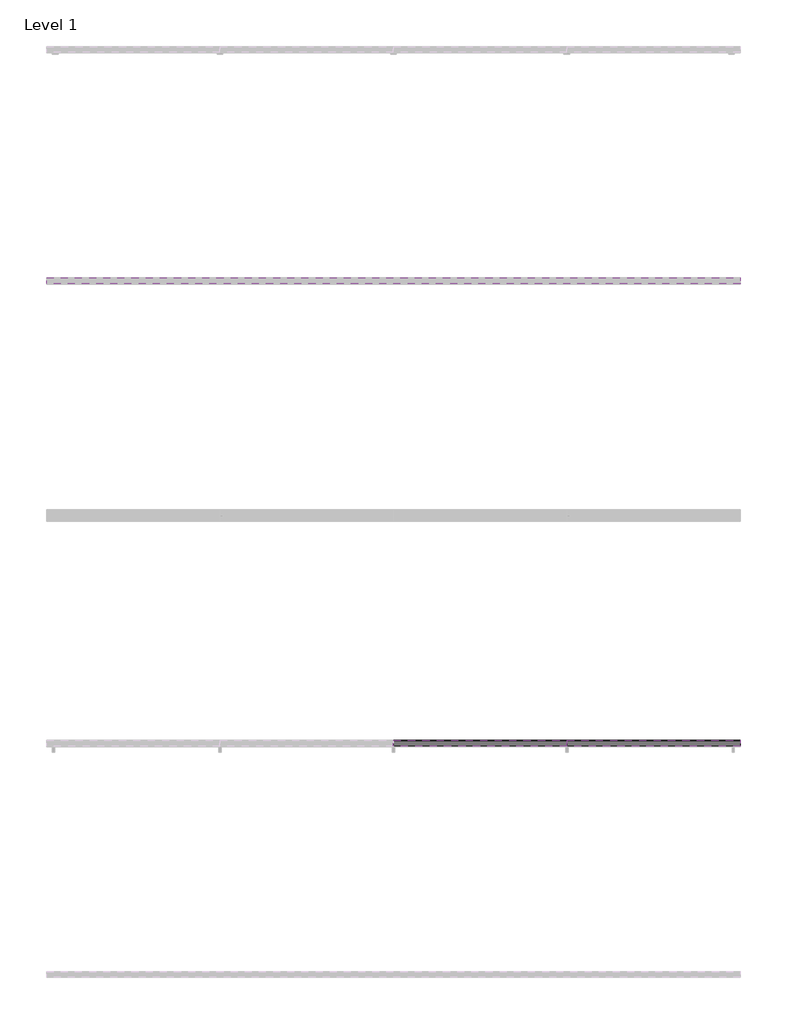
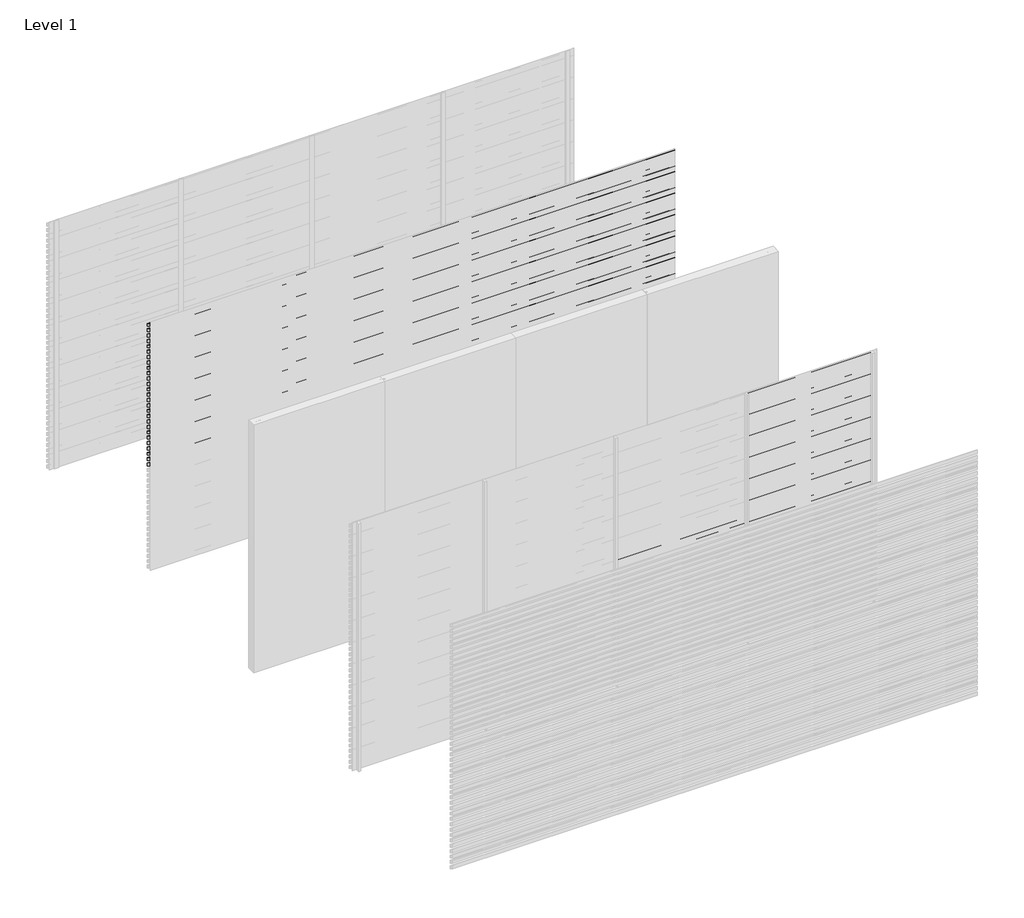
# One storey, part 8 of 10: 97 proxies.
"""IFC4 building model written with IfcOpenShell, lengths in millimetres."""

from ifc_helpers import new_model, si_unit, frame, origin, place, context, project, spatial, polyline, outline, extrude, element, save

model = new_model("IFC4")

# Units and contexts
model_context = context("Model", 3, world=origin())
ifc_project = project(units=[si_unit("LENGTHUNIT", "METRE", prefix="MILLI")], contexts=[model_context])

# Site, building, storey
site = spatial("IfcSite", under=ifc_project)
building = spatial("IfcBuilding", under=site)
storey = spatial("IfcBuildingStorey", under=building, Name="Level 1", Elevation=0.0)

# Proxies
placement = place(None, origin())
element("IfcBuildingElementProxy", 1, Name="Wall Sweeps", at=placement, inside=storey, context=model_context, shape_type="SweptSolid", body=[
    extrude(outline(polyline([(-1995.0, 2990.0), (-1995.0, 2981.2901632), (-1946.0, 2953.0), (-1946.0, 2918.0), (-1997.0, 2947.4448637), (-1997.0, 2990.0), (-1995.0, 2990.0)])), frame((0.0, 0.0, 0.0), z_axis=(1.0, 0.0, 0.0), x_axis=(0.0, 1.0, 0.0)), (0.0, 0.0, 1.0), 6000.0),
])
element("IfcBuildingElementProxy", 2, Name="Wall Sweeps", at=placement, inside=storey, context=model_context, shape_type="SweptSolid", body=[
    extrude(outline(polyline([(-1995.0, 2925.0), (-1995.0, 2916.2901632), (-1946.0, 2888.0), (-1946.0, 2853.0), (-1997.0, 2882.4448637), (-1997.0, 2925.0), (-1995.0, 2925.0)])), frame((0.0, 0.0, 0.0), z_axis=(1.0, 0.0, 0.0), x_axis=(0.0, 1.0, 0.0)), (0.0, 0.0, 1.0), 6000.0),
])
element("IfcBuildingElementProxy", 3, Name="Wall Sweeps", at=placement, inside=storey, context=model_context, shape_type="SweptSolid", body=[
    extrude(outline(polyline([(-1995.0, 2860.0), (-1995.0, 2851.2901632), (-1946.0, 2823.0), (-1946.0, 2788.0), (-1997.0, 2817.4448637), (-1997.0, 2860.0), (-1995.0, 2860.0)])), frame((0.0, 0.0, 0.0), z_axis=(1.0, 0.0, 0.0), x_axis=(0.0, 1.0, 0.0)), (0.0, 0.0, 1.0), 6000.0),
])
element("IfcBuildingElementProxy", 4, Name="Wall Sweeps", at=placement, inside=storey, context=model_context, shape_type="SweptSolid", body=[
    extrude(outline(polyline([(-1995.0, 2795.0), (-1995.0, 2786.2901632), (-1946.0, 2758.0), (-1946.0, 2723.0), (-1997.0, 2752.4448637), (-1997.0, 2795.0), (-1995.0, 2795.0)])), frame((0.0, 0.0, 0.0), z_axis=(1.0, 0.0, 0.0), x_axis=(0.0, 1.0, 0.0)), (0.0, 0.0, 1.0), 6000.0),
])
element("IfcBuildingElementProxy", 5, Name="Wall Sweeps", at=placement, inside=storey, context=model_context, shape_type="SweptSolid", body=[
    extrude(outline(polyline([(-1995.0, 2730.0), (-1995.0, 2721.2901632), (-1946.0, 2693.0), (-1946.0, 2658.0), (-1997.0, 2687.4448637), (-1997.0, 2730.0), (-1995.0, 2730.0)])), frame((0.0, 0.0, 0.0), z_axis=(1.0, 0.0, 0.0), x_axis=(0.0, 1.0, 0.0)), (0.0, 0.0, 1.0), 6000.0),
])
element("IfcBuildingElementProxy", 6, Name="Wall Sweeps", at=placement, inside=storey, context=model_context, shape_type="SweptSolid", body=[
    extrude(outline(polyline([(-1995.0, 2665.0), (-1995.0, 2656.2901632), (-1946.0, 2628.0), (-1946.0, 2593.0), (-1997.0, 2622.4448637), (-1997.0, 2665.0), (-1995.0, 2665.0)])), frame((0.0, 0.0, 0.0), z_axis=(1.0, 0.0, 0.0), x_axis=(0.0, 1.0, 0.0)), (0.0, 0.0, 1.0), 6000.0),
])
element("IfcBuildingElementProxy", 7, Name="Wall Sweeps", at=placement, inside=storey, context=model_context, shape_type="SweptSolid", body=[
    extrude(outline(polyline([(-1995.0, 2600.0), (-1995.0, 2591.2901632), (-1946.0, 2563.0), (-1946.0, 2528.0), (-1997.0, 2557.4448637), (-1997.0, 2600.0), (-1995.0, 2600.0)])), frame((0.0, 0.0, 0.0), z_axis=(1.0, 0.0, 0.0), x_axis=(0.0, 1.0, 0.0)), (0.0, 0.0, 1.0), 6000.0),
])
element("IfcBuildingElementProxy", 8, Name="Wall Sweeps", at=placement, inside=storey, context=model_context, shape_type="SweptSolid", body=[
    extrude(outline(polyline([(-1995.0, 2535.0), (-1995.0, 2526.2901632), (-1946.0, 2498.0), (-1946.0, 2463.0), (-1997.0, 2492.4448637), (-1997.0, 2535.0), (-1995.0, 2535.0)])), frame((0.0, 0.0, 0.0), z_axis=(1.0, 0.0, 0.0), x_axis=(0.0, 1.0, 0.0)), (0.0, 0.0, 1.0), 6000.0),
])
element("IfcBuildingElementProxy", 9, Name="Wall Sweeps", at=placement, inside=storey, context=model_context, shape_type="SweptSolid", body=[
    extrude(outline(polyline([(-1995.0, 2470.0), (-1995.0, 2461.2901632), (-1946.0, 2433.0), (-1946.0, 2398.0), (-1997.0, 2427.4448637), (-1997.0, 2470.0), (-1995.0, 2470.0)])), frame((0.0, 0.0, 0.0), z_axis=(1.0, 0.0, 0.0), x_axis=(0.0, 1.0, 0.0)), (0.0, 0.0, 1.0), 6000.0),
])
element("IfcBuildingElementProxy", 10, Name="Wall Sweeps", at=placement, inside=storey, context=model_context, shape_type="SweptSolid", body=[
    extrude(outline(polyline([(-1995.0, 2405.0), (-1995.0, 2396.2901632), (-1946.0, 2368.0), (-1946.0, 2333.0), (-1997.0, 2362.4448637), (-1997.0, 2405.0), (-1995.0, 2405.0)])), frame((0.0, 0.0, 0.0), z_axis=(1.0, 0.0, 0.0), x_axis=(0.0, 1.0, 0.0)), (0.0, 0.0, 1.0), 6000.0),
])
element("IfcBuildingElementProxy", 11, Name="Wall Sweeps", at=placement, inside=storey, context=model_context, shape_type="SweptSolid", body=[
    extrude(outline(polyline([(-1995.0, 2340.0), (-1995.0, 2331.2901632), (-1946.0, 2303.0), (-1946.0, 2268.0), (-1997.0, 2297.4448637), (-1997.0, 2340.0), (-1995.0, 2340.0)])), frame((0.0, 0.0, 0.0), z_axis=(1.0, 0.0, 0.0), x_axis=(0.0, 1.0, 0.0)), (0.0, 0.0, 1.0), 6000.0),
])
element("IfcBuildingElementProxy", 12, Name="Wall Sweeps", at=placement, inside=storey, context=model_context, shape_type="SweptSolid", body=[
    extrude(outline(polyline([(-1995.0, 2275.0), (-1995.0, 2266.2901632), (-1946.0, 2238.0), (-1946.0, 2203.0), (-1997.0, 2232.4448637), (-1997.0, 2275.0), (-1995.0, 2275.0)])), frame((0.0, 0.0, 0.0), z_axis=(1.0, 0.0, 0.0), x_axis=(0.0, 1.0, 0.0)), (0.0, 0.0, 1.0), 6000.0),
])
element("IfcBuildingElementProxy", 13, Name="Wall Sweeps", at=placement, inside=storey, context=model_context, shape_type="SweptSolid", body=[
    extrude(outline(polyline([(-1995.0, 2210.0), (-1995.0, 2201.2901632), (-1946.0, 2173.0), (-1946.0, 2138.0), (-1997.0, 2167.4448637), (-1997.0, 2210.0), (-1995.0, 2210.0)])), frame((0.0, 0.0, 0.0), z_axis=(1.0, 0.0, 0.0), x_axis=(0.0, 1.0, 0.0)), (0.0, 0.0, 1.0), 6000.0),
])
element("IfcBuildingElementProxy", 14, Name="Wall Sweeps", at=placement, inside=storey, context=model_context, shape_type="SweptSolid", body=[
    extrude(outline(polyline([(-1995.0, 2145.0), (-1995.0, 2136.2901632), (-1946.0, 2108.0), (-1946.0, 2073.0), (-1997.0, 2102.4448637), (-1997.0, 2145.0), (-1995.0, 2145.0)])), frame((0.0, 0.0, 0.0), z_axis=(1.0, 0.0, 0.0), x_axis=(0.0, 1.0, 0.0)), (0.0, 0.0, 1.0), 6000.0),
])
element("IfcBuildingElementProxy", 15, Name="Wall Sweeps", at=placement, inside=storey, context=model_context, shape_type="SweptSolid", body=[
    extrude(outline(polyline([(-1995.0, 2080.0), (-1995.0, 2071.2901632), (-1946.0, 2043.0), (-1946.0, 2008.0), (-1997.0, 2037.4448637), (-1997.0, 2080.0), (-1995.0, 2080.0)])), frame((0.0, 0.0, 0.0), z_axis=(1.0, 0.0, 0.0), x_axis=(0.0, 1.0, 0.0)), (0.0, 0.0, 1.0), 6000.0),
])
element("IfcBuildingElementProxy", 16, Name="Wall Sweeps", at=placement, inside=storey, context=model_context, shape_type="SweptSolid", body=[
    extrude(outline(polyline([(-1995.0, 2015.0), (-1995.0, 2006.2901632), (-1946.0, 1978.0), (-1946.0, 1943.0), (-1997.0, 1972.4448637), (-1997.0, 2015.0), (-1995.0, 2015.0)])), frame((0.0, 0.0, 0.0), z_axis=(1.0, 0.0, 0.0), x_axis=(0.0, 1.0, 0.0)), (0.0, 0.0, 1.0), 6000.0),
])
element("IfcBuildingElementProxy", 17, Name="Wall Sweeps", at=placement, inside=storey, context=model_context, shape_type="SweptSolid", body=[
    extrude(outline(polyline([(-1995.0, 1950.0), (-1995.0, 1941.2901632), (-1946.0, 1913.0), (-1946.0, 1878.0), (-1997.0, 1907.4448637), (-1997.0, 1950.0), (-1995.0, 1950.0)])), frame((0.0, 0.0, 0.0), z_axis=(1.0, 0.0, 0.0), x_axis=(0.0, 1.0, 0.0)), (0.0, 0.0, 1.0), 6000.0),
])
element("IfcBuildingElementProxy", 18, Name="Wall Sweeps", at=placement, inside=storey, context=model_context, shape_type="SweptSolid", body=[
    extrude(outline(polyline([(-1995.0, 1885.0), (-1995.0, 1876.2901632), (-1946.0, 1848.0), (-1946.0, 1813.0), (-1997.0, 1842.4448637), (-1997.0, 1885.0), (-1995.0, 1885.0)])), frame((0.0, 0.0, 0.0), z_axis=(1.0, 0.0, 0.0), x_axis=(0.0, 1.0, 0.0)), (0.0, 0.0, 1.0), 6000.0),
])
element("IfcBuildingElementProxy", 19, Name="Wall Sweeps", at=placement, inside=storey, context=model_context, shape_type="SweptSolid", body=[
    extrude(outline(polyline([(-1995.0, 1820.0), (-1995.0, 1811.2901632), (-1946.0, 1783.0), (-1946.0, 1748.0), (-1997.0, 1777.4448637), (-1997.0, 1820.0), (-1995.0, 1820.0)])), frame((0.0, 0.0, 0.0), z_axis=(1.0, 0.0, 0.0), x_axis=(0.0, 1.0, 0.0)), (0.0, 0.0, 1.0), 6000.0),
])
element("IfcBuildingElementProxy", 20, Name="Wall Sweeps", at=placement, inside=storey, context=model_context, shape_type="SweptSolid", body=[
    extrude(outline(polyline([(-1995.0, 1755.0), (-1995.0, 1746.2901632), (-1946.0, 1718.0), (-1946.0, 1683.0), (-1997.0, 1712.4448637), (-1997.0, 1755.0), (-1995.0, 1755.0)])), frame((0.0, 0.0, 0.0), z_axis=(1.0, 0.0, 0.0), x_axis=(0.0, 1.0, 0.0)), (0.0, 0.0, 1.0), 6000.0),
])
element("IfcBuildingElementProxy", 21, Name="Wall Sweeps", at=placement, inside=storey, context=model_context, shape_type="SweptSolid", body=[
    extrude(outline(polyline([(-1995.0, 1690.0), (-1995.0, 1681.2901632), (-1946.0, 1653.0), (-1946.0, 1618.0), (-1997.0, 1647.4448637), (-1997.0, 1690.0), (-1995.0, 1690.0)])), frame((0.0, 0.0, 0.0), z_axis=(1.0, 0.0, 0.0), x_axis=(0.0, 1.0, 0.0)), (0.0, 0.0, 1.0), 6000.0),
])
element("IfcBuildingElementProxy", 22, Name="Wall Sweeps", at=placement, inside=storey, context=model_context, shape_type="SweptSolid", body=[
    extrude(outline(polyline([(-1995.0, 1625.0), (-1995.0, 1616.2901632), (-1946.0, 1588.0), (-1946.0, 1553.0), (-1997.0, 1582.4448637), (-1997.0, 1625.0), (-1995.0, 1625.0)])), frame((0.0, 0.0, 0.0), z_axis=(1.0, 0.0, 0.0), x_axis=(0.0, 1.0, 0.0)), (0.0, 0.0, 1.0), 6000.0),
])
element("IfcBuildingElementProxy", 23, Name="Wall Sweeps", at=placement, inside=storey, context=model_context, shape_type="SweptSolid", body=[
    extrude(outline(polyline([(-1995.0, 1560.0), (-1995.0, 1551.2901632), (-1946.0, 1523.0), (-1946.0, 1488.0), (-1997.0, 1517.4448637), (-1997.0, 1560.0), (-1995.0, 1560.0)])), frame((0.0, 0.0, 0.0), z_axis=(1.0, 0.0, 0.0), x_axis=(0.0, 1.0, 0.0)), (0.0, 0.0, 1.0), 6000.0),
])
element("IfcBuildingElementProxy", 24, Name="Wall Sweeps", at=placement, inside=storey, context=model_context, shape_type="SweptSolid", body=[
    extrude(outline(polyline([(-1995.0, 1495.0), (-1995.0, 1486.2901632), (-1946.0, 1458.0), (-1946.0, 1423.0), (-1997.0, 1452.4448637), (-1997.0, 1495.0), (-1995.0, 1495.0)])), frame((0.0, 0.0, 0.0), z_axis=(1.0, 0.0, 0.0), x_axis=(0.0, 1.0, 0.0)), (0.0, 0.0, 1.0), 6000.0),
])
element("IfcBuildingElementProxy", 25, Name="Wall Sweeps", at=placement, inside=storey, context=model_context, shape_type="SweptSolid", body=[
    extrude(outline(polyline([(-1995.0, 1430.0), (-1995.0, 1421.2901632), (-1946.0, 1393.0), (-1946.0, 1358.0), (-1997.0, 1387.4448637), (-1997.0, 1430.0), (-1995.0, 1430.0)])), frame((0.0, 0.0, 0.0), z_axis=(1.0, 0.0, 0.0), x_axis=(0.0, 1.0, 0.0)), (0.0, 0.0, 1.0), 6000.0),
])
element("IfcBuildingElementProxy", 26, Name="Wall Sweeps", at=placement, inside=storey, context=model_context, shape_type="SweptSolid", body=[
    extrude(outline(polyline([(-1995.0, 1365.0), (-1995.0, 1356.2901632), (-1946.0, 1328.0), (-1946.0, 1293.0), (-1997.0, 1322.4448637), (-1997.0, 1365.0), (-1995.0, 1365.0)])), frame((0.0, 0.0, 0.0), z_axis=(1.0, 0.0, 0.0), x_axis=(0.0, 1.0, 0.0)), (0.0, 0.0, 1.0), 6000.0),
])
element("IfcBuildingElementProxy", 27, Name="Wall Sweeps", at=placement, inside=storey, context=model_context, shape_type="SweptSolid", body=[
    extrude(outline(polyline([(-1995.0, 1300.0), (-1995.0, 1291.2901632), (-1946.0, 1263.0), (-1946.0, 1228.0), (-1997.0, 1257.4448637), (-1997.0, 1300.0), (-1995.0, 1300.0)])), frame((0.0, 0.0, 0.0), z_axis=(1.0, 0.0, 0.0), x_axis=(0.0, 1.0, 0.0)), (0.0, 0.0, 1.0), 6000.0),
])
element("IfcBuildingElementProxy", 28, Name="Wall Sweeps", at=placement, inside=storey, context=model_context, shape_type="SweptSolid", body=[
    extrude(outline(polyline([(-5995.0, 1560.0), (-5995.0, 1551.2901632), (-5946.0, 1523.0), (-5946.0, 1488.0), (-5997.0, 1517.4448637), (-5997.0, 1560.0), (-5995.0, 1560.0)])), frame((3000.0, 0.0, 0.0), z_axis=(1.0, 0.0, 0.0), x_axis=(0.0, 1.0, 0.0)), (0.0, 0.0, 1.0), 1500.0),
])
element("IfcBuildingElementProxy", 29, Name="Wall Sweeps", at=placement, inside=storey, context=model_context, shape_type="SweptSolid", body=[
    extrude(outline(polyline([(-5995.0, 1495.0), (-5995.0, 1486.2901632), (-5946.0, 1458.0), (-5946.0, 1423.0), (-5997.0, 1452.4448637), (-5997.0, 1495.0), (-5995.0, 1495.0)])), frame((3000.0, 0.0, 0.0), z_axis=(1.0, 0.0, 0.0), x_axis=(0.0, 1.0, 0.0)), (0.0, 0.0, 1.0), 1500.0),
])
element("IfcBuildingElementProxy", 30, Name="Wall Sweeps", at=placement, inside=storey, context=model_context, shape_type="SweptSolid", body=[
    extrude(outline(polyline([(-5995.0, 1430.0), (-5995.0, 1421.2901632), (-5946.0, 1393.0), (-5946.0, 1358.0), (-5997.0, 1387.4448637), (-5997.0, 1430.0), (-5995.0, 1430.0)])), frame((3000.0, 0.0, 0.0), z_axis=(1.0, 0.0, 0.0), x_axis=(0.0, 1.0, 0.0)), (0.0, 0.0, 1.0), 1500.0),
])
element("IfcBuildingElementProxy", 31, Name="Wall Sweeps", at=placement, inside=storey, context=model_context, shape_type="SweptSolid", body=[
    extrude(outline(polyline([(-5995.0, 1365.0), (-5995.0, 1356.2901632), (-5946.0, 1328.0), (-5946.0, 1293.0), (-5997.0, 1322.4448637), (-5997.0, 1365.0), (-5995.0, 1365.0)])), frame((3000.0, 0.0, 0.0), z_axis=(1.0, 0.0, 0.0), x_axis=(0.0, 1.0, 0.0)), (0.0, 0.0, 1.0), 1500.0),
])
element("IfcBuildingElementProxy", 32, Name="Wall Sweeps", at=placement, inside=storey, context=model_context, shape_type="SweptSolid", body=[
    extrude(outline(polyline([(-5995.0, 1300.0), (-5995.0, 1291.2901632), (-5946.0, 1263.0), (-5946.0, 1228.0), (-5997.0, 1257.4448637), (-5997.0, 1300.0), (-5995.0, 1300.0)])), frame((3000.0, 0.0, 0.0), z_axis=(1.0, 0.0, 0.0), x_axis=(0.0, 1.0, 0.0)), (0.0, 0.0, 1.0), 1500.0),
])
element("IfcBuildingElementProxy", 33, Name="Wall Sweeps", at=placement, inside=storey, context=model_context, shape_type="SweptSolid", body=[
    extrude(outline(polyline([(-5995.0, 1235.0), (-5995.0, 1226.2901632), (-5946.0, 1198.0), (-5946.0, 1163.0), (-5997.0, 1192.4448637), (-5997.0, 1235.0), (-5995.0, 1235.0)])), frame((3000.0, 0.0, 0.0), z_axis=(1.0, 0.0, 0.0), x_axis=(0.0, 1.0, 0.0)), (0.0, 0.0, 1.0), 1500.0),
])
element("IfcBuildingElementProxy", 34, Name="Wall Sweeps", at=placement, inside=storey, context=model_context, shape_type="SweptSolid", body=[
    extrude(outline(polyline([(-5995.0, 1170.0), (-5995.0, 1161.2901632), (-5946.0, 1133.0), (-5946.0, 1098.0), (-5997.0, 1127.4448637), (-5997.0, 1170.0), (-5995.0, 1170.0)])), frame((3000.0, 0.0, 0.0), z_axis=(1.0, 0.0, 0.0), x_axis=(0.0, 1.0, 0.0)), (0.0, 0.0, 1.0), 1500.0),
])
element("IfcBuildingElementProxy", 35, Name="Wall Sweeps", at=placement, inside=storey, context=model_context, shape_type="SweptSolid", body=[
    extrude(outline(polyline([(-5995.0, 1105.0), (-5995.0, 1096.2901632), (-5946.0, 1068.0), (-5946.0, 1033.0), (-5997.0, 1062.4448637), (-5997.0, 1105.0), (-5995.0, 1105.0)])), frame((3000.0, 0.0, 0.0), z_axis=(1.0, 0.0, 0.0), x_axis=(0.0, 1.0, 0.0)), (0.0, 0.0, 1.0), 1500.0),
])
element("IfcBuildingElementProxy", 36, Name="Wall Sweeps", at=placement, inside=storey, context=model_context, shape_type="SweptSolid", body=[
    extrude(outline(polyline([(-5995.0, 1040.0), (-5995.0, 1031.2901632), (-5946.0, 1003.0), (-5946.0, 968.0), (-5997.0, 997.4448637), (-5997.0, 1040.0), (-5995.0, 1040.0)])), frame((3000.0, 0.0, 0.0), z_axis=(1.0, 0.0, 0.0), x_axis=(0.0, 1.0, 0.0)), (0.0, 0.0, 1.0), 1500.0),
])
element("IfcBuildingElementProxy", 37, Name="Wall Sweeps", at=placement, inside=storey, context=model_context, shape_type="SweptSolid", body=[
    extrude(outline(polyline([(-5995.0, 975.0), (-5995.0, 966.2901632), (-5946.0, 938.0), (-5946.0, 903.0), (-5997.0, 932.4448637), (-5997.0, 975.0), (-5995.0, 975.0)])), frame((3000.0, 0.0, 0.0), z_axis=(1.0, 0.0, 0.0), x_axis=(0.0, 1.0, 0.0)), (0.0, 0.0, 1.0), 1500.0),
])
element("IfcBuildingElementProxy", 38, Name="Wall Sweeps", at=placement, inside=storey, context=model_context, shape_type="SweptSolid", body=[
    extrude(outline(polyline([(-5995.0, 910.0), (-5995.0, 901.2901632), (-5946.0, 873.0), (-5946.0, 838.0), (-5997.0, 867.4448637), (-5997.0, 910.0), (-5995.0, 910.0)])), frame((3000.0, 0.0, 0.0), z_axis=(1.0, 0.0, 0.0), x_axis=(0.0, 1.0, 0.0)), (0.0, 0.0, 1.0), 1500.0),
])
element("IfcBuildingElementProxy", 39, Name="Wall Sweeps", at=placement, inside=storey, context=model_context, shape_type="SweptSolid", body=[
    extrude(outline(polyline([(-5995.0, 845.0), (-5995.0, 836.2901632), (-5946.0, 808.0), (-5946.0, 773.0), (-5997.0, 802.4448637), (-5997.0, 845.0), (-5995.0, 845.0)])), frame((3000.0, 0.0, 0.0), z_axis=(1.0, 0.0, 0.0), x_axis=(0.0, 1.0, 0.0)), (0.0, 0.0, 1.0), 1500.0),
])
element("IfcBuildingElementProxy", 40, Name="Wall Sweeps", at=placement, inside=storey, context=model_context, shape_type="SweptSolid", body=[
    extrude(outline(polyline([(-5995.0, 780.0), (-5995.0, 771.2901632), (-5946.0, 743.0), (-5946.0, 708.0), (-5997.0, 737.4448637), (-5997.0, 780.0), (-5995.0, 780.0)])), frame((3000.0, 0.0, 0.0), z_axis=(1.0, 0.0, 0.0), x_axis=(0.0, 1.0, 0.0)), (0.0, 0.0, 1.0), 1500.0),
])
element("IfcBuildingElementProxy", 41, Name="Wall Sweeps", at=placement, inside=storey, context=model_context, shape_type="SweptSolid", body=[
    extrude(outline(polyline([(-5995.0, 715.0), (-5995.0, 706.2901632), (-5946.0, 678.0), (-5946.0, 643.0), (-5997.0, 672.4448637), (-5997.0, 715.0), (-5995.0, 715.0)])), frame((3000.0, 0.0, 0.0), z_axis=(1.0, 0.0, 0.0), x_axis=(0.0, 1.0, 0.0)), (0.0, 0.0, 1.0), 1500.0),
])
element("IfcBuildingElementProxy", 42, Name="Wall Sweeps", at=placement, inside=storey, context=model_context, shape_type="SweptSolid", body=[
    extrude(outline(polyline([(-5995.0, 650.0), (-5995.0, 641.2901632), (-5946.0, 613.0), (-5946.0, 578.0), (-5997.0, 607.4448637), (-5997.0, 650.0), (-5995.0, 650.0)])), frame((3000.0, 0.0, 0.0), z_axis=(1.0, 0.0, 0.0), x_axis=(0.0, 1.0, 0.0)), (0.0, 0.0, 1.0), 1500.0),
])
element("IfcBuildingElementProxy", 43, Name="Wall Sweeps", at=placement, inside=storey, context=model_context, shape_type="SweptSolid", body=[
    extrude(outline(polyline([(-5995.0, 585.0), (-5995.0, 576.2901632), (-5946.0, 548.0), (-5946.0, 513.0), (-5997.0, 542.4448637), (-5997.0, 585.0), (-5995.0, 585.0)])), frame((3000.0, 0.0, 0.0), z_axis=(1.0, 0.0, 0.0), x_axis=(0.0, 1.0, 0.0)), (0.0, 0.0, 1.0), 1500.0),
])
element("IfcBuildingElementProxy", 44, Name="Wall Sweeps", at=placement, inside=storey, context=model_context, shape_type="SweptSolid", body=[
    extrude(outline(polyline([(-5995.0, 520.0), (-5995.0, 511.2901632), (-5946.0, 483.0), (-5946.0, 448.0), (-5997.0, 477.4448637), (-5997.0, 520.0), (-5995.0, 520.0)])), frame((3000.0, 0.0, 0.0), z_axis=(1.0, 0.0, 0.0), x_axis=(0.0, 1.0, 0.0)), (0.0, 0.0, 1.0), 1500.0),
])
element("IfcBuildingElementProxy", 45, Name="Wall Sweeps", at=placement, inside=storey, context=model_context, shape_type="SweptSolid", body=[
    extrude(outline(polyline([(-5995.0, 455.0), (-5995.0, 446.2901632), (-5946.0, 418.0), (-5946.0, 383.0), (-5997.0, 412.4448637), (-5997.0, 455.0), (-5995.0, 455.0)])), frame((3000.0, 0.0, 0.0), z_axis=(1.0, 0.0, 0.0), x_axis=(0.0, 1.0, 0.0)), (0.0, 0.0, 1.0), 1500.0),
])
element("IfcBuildingElementProxy", 46, Name="Wall Sweeps", at=placement, inside=storey, context=model_context, shape_type="SweptSolid", body=[
    extrude(outline(polyline([(-5995.0, 390.0), (-5995.0, 381.2901632), (-5946.0, 353.0), (-5946.0, 318.0), (-5997.0, 347.4448637), (-5997.0, 390.0), (-5995.0, 390.0)])), frame((3000.0, 0.0, 0.0), z_axis=(1.0, 0.0, 0.0), x_axis=(0.0, 1.0, 0.0)), (0.0, 0.0, 1.0), 1500.0),
])
element("IfcBuildingElementProxy", 47, Name="Wall Sweeps", at=placement, inside=storey, context=model_context, shape_type="SweptSolid", body=[
    extrude(outline(polyline([(-5995.0, 325.0), (-5995.0, 316.2901632), (-5946.0, 288.0), (-5946.0, 253.0), (-5997.0, 282.4448637), (-5997.0, 325.0), (-5995.0, 325.0)])), frame((3000.0, 0.0, 0.0), z_axis=(1.0, 0.0, 0.0), x_axis=(0.0, 1.0, 0.0)), (0.0, 0.0, 1.0), 1500.0),
])
element("IfcBuildingElementProxy", 48, Name="Wall Sweeps", at=placement, inside=storey, context=model_context, shape_type="SweptSolid", body=[
    extrude(outline(polyline([(-5995.0, 260.0), (-5995.0, 251.2901632), (-5946.0, 223.0), (-5946.0, 188.0), (-5997.0, 217.4448637), (-5997.0, 260.0), (-5995.0, 260.0)])), frame((3000.0, 0.0, 0.0), z_axis=(1.0, 0.0, 0.0), x_axis=(0.0, 1.0, 0.0)), (0.0, 0.0, 1.0), 1500.0),
])
element("IfcBuildingElementProxy", 49, Name="Wall Sweeps", at=placement, inside=storey, context=model_context, shape_type="SweptSolid", body=[
    extrude(outline(polyline([(-5995.0, 195.0), (-5995.0, 186.2901632), (-5946.0, 158.0), (-5946.0, 123.0), (-5997.0, 152.4448637), (-5997.0, 195.0), (-5995.0, 195.0)])), frame((3000.0, 0.0, 0.0), z_axis=(1.0, 0.0, 0.0), x_axis=(0.0, 1.0, 0.0)), (0.0, 0.0, 1.0), 1500.0),
])
element("IfcBuildingElementProxy", 50, Name="Wall Sweeps", at=placement, inside=storey, context=model_context, shape_type="SweptSolid", body=[
    extrude(outline(polyline([(-5995.0, 130.0), (-5995.0, 121.2901632), (-5946.0, 93.0), (-5946.0, 58.0), (-5997.0, 87.4448637), (-5997.0, 130.0), (-5995.0, 130.0)])), frame((3000.0, 0.0, 0.0), z_axis=(1.0, 0.0, 0.0), x_axis=(0.0, 1.0, 0.0)), (0.0, 0.0, 1.0), 1500.0),
])
element("IfcBuildingElementProxy", 51, Name="Wall Sweeps", at=placement, inside=storey, context=model_context, shape_type="SweptSolid", body=[
    extrude(outline(polyline([(-5995.0, 65.0), (-5995.0, 56.2901632), (-5946.0, 28.0), (-5946.0, -7.0), (-5997.0, 22.4448637), (-5997.0, 65.0), (-5995.0, 65.0)])), frame((3000.0, 0.0, 0.0), z_axis=(1.0, 0.0, 0.0), x_axis=(0.0, 1.0, 0.0)), (0.0, 0.0, 1.0), 1500.0),
])
element("IfcBuildingElementProxy", 52, Name="Wall Sweeps", at=placement, inside=storey, context=model_context, shape_type="SweptSolid", body=[
    extrude(outline(polyline([(-5995.0, 2990.0), (-5995.0, 2981.2901632), (-5946.0, 2953.0), (-5946.0, 2918.0), (-5997.0, 2947.4448637), (-5997.0, 2990.0), (-5995.0, 2990.0)])), frame((4500.0, 0.0, 0.0), z_axis=(1.0, 0.0, 0.0), x_axis=(0.0, 1.0, 0.0)), (0.0, 0.0, 1.0), 1500.0),
])
element("IfcBuildingElementProxy", 53, Name="Wall Sweeps", at=placement, inside=storey, context=model_context, shape_type="SweptSolid", body=[
    extrude(outline(polyline([(-5995.0, 2925.0), (-5995.0, 2916.2901632), (-5946.0, 2888.0), (-5946.0, 2853.0), (-5997.0, 2882.4448637), (-5997.0, 2925.0), (-5995.0, 2925.0)])), frame((4500.0, 0.0, 0.0), z_axis=(1.0, 0.0, 0.0), x_axis=(0.0, 1.0, 0.0)), (0.0, 0.0, 1.0), 1500.0),
])
element("IfcBuildingElementProxy", 54, Name="Wall Sweeps", at=placement, inside=storey, context=model_context, shape_type="SweptSolid", body=[
    extrude(outline(polyline([(-5995.0, 2860.0), (-5995.0, 2851.2901632), (-5946.0, 2823.0), (-5946.0, 2788.0), (-5997.0, 2817.4448637), (-5997.0, 2860.0), (-5995.0, 2860.0)])), frame((4500.0, 0.0, 0.0), z_axis=(1.0, 0.0, 0.0), x_axis=(0.0, 1.0, 0.0)), (0.0, 0.0, 1.0), 1500.0),
])
element("IfcBuildingElementProxy", 55, Name="Wall Sweeps", at=placement, inside=storey, context=model_context, shape_type="SweptSolid", body=[
    extrude(outline(polyline([(-5995.0, 2795.0), (-5995.0, 2786.2901632), (-5946.0, 2758.0), (-5946.0, 2723.0), (-5997.0, 2752.4448637), (-5997.0, 2795.0), (-5995.0, 2795.0)])), frame((4500.0, 0.0, 0.0), z_axis=(1.0, 0.0, 0.0), x_axis=(0.0, 1.0, 0.0)), (0.0, 0.0, 1.0), 1500.0),
])
element("IfcBuildingElementProxy", 56, Name="Wall Sweeps", at=placement, inside=storey, context=model_context, shape_type="SweptSolid", body=[
    extrude(outline(polyline([(-5995.0, 2730.0), (-5995.0, 2721.2901632), (-5946.0, 2693.0), (-5946.0, 2658.0), (-5997.0, 2687.4448637), (-5997.0, 2730.0), (-5995.0, 2730.0)])), frame((4500.0, 0.0, 0.0), z_axis=(1.0, 0.0, 0.0), x_axis=(0.0, 1.0, 0.0)), (0.0, 0.0, 1.0), 1500.0),
])
element("IfcBuildingElementProxy", 57, Name="Wall Sweeps", at=placement, inside=storey, context=model_context, shape_type="SweptSolid", body=[
    extrude(outline(polyline([(-5995.0, 2665.0), (-5995.0, 2656.2901632), (-5946.0, 2628.0), (-5946.0, 2593.0), (-5997.0, 2622.4448637), (-5997.0, 2665.0), (-5995.0, 2665.0)])), frame((4500.0, 0.0, 0.0), z_axis=(1.0, 0.0, 0.0), x_axis=(0.0, 1.0, 0.0)), (0.0, 0.0, 1.0), 1500.0),
])
element("IfcBuildingElementProxy", 58, Name="Wall Sweeps", at=placement, inside=storey, context=model_context, shape_type="SweptSolid", body=[
    extrude(outline(polyline([(-5995.0, 2600.0), (-5995.0, 2591.2901632), (-5946.0, 2563.0), (-5946.0, 2528.0), (-5997.0, 2557.4448637), (-5997.0, 2600.0), (-5995.0, 2600.0)])), frame((4500.0, 0.0, 0.0), z_axis=(1.0, 0.0, 0.0), x_axis=(0.0, 1.0, 0.0)), (0.0, 0.0, 1.0), 1500.0),
])
element("IfcBuildingElementProxy", 59, Name="Wall Sweeps", at=placement, inside=storey, context=model_context, shape_type="SweptSolid", body=[
    extrude(outline(polyline([(-5995.0, 2535.0), (-5995.0, 2526.2901632), (-5946.0, 2498.0), (-5946.0, 2463.0), (-5997.0, 2492.4448637), (-5997.0, 2535.0), (-5995.0, 2535.0)])), frame((4500.0, 0.0, 0.0), z_axis=(1.0, 0.0, 0.0), x_axis=(0.0, 1.0, 0.0)), (0.0, 0.0, 1.0), 1500.0),
])
element("IfcBuildingElementProxy", 60, Name="Wall Sweeps", at=placement, inside=storey, context=model_context, shape_type="SweptSolid", body=[
    extrude(outline(polyline([(-5995.0, 2470.0), (-5995.0, 2461.2901632), (-5946.0, 2433.0), (-5946.0, 2398.0), (-5997.0, 2427.4448637), (-5997.0, 2470.0), (-5995.0, 2470.0)])), frame((4500.0, 0.0, 0.0), z_axis=(1.0, 0.0, 0.0), x_axis=(0.0, 1.0, 0.0)), (0.0, 0.0, 1.0), 1500.0),
])
element("IfcBuildingElementProxy", 61, Name="Wall Sweeps", at=placement, inside=storey, context=model_context, shape_type="SweptSolid", body=[
    extrude(outline(polyline([(-5995.0, 2405.0), (-5995.0, 2396.2901632), (-5946.0, 2368.0), (-5946.0, 2333.0), (-5997.0, 2362.4448637), (-5997.0, 2405.0), (-5995.0, 2405.0)])), frame((4500.0, 0.0, 0.0), z_axis=(1.0, 0.0, 0.0), x_axis=(0.0, 1.0, 0.0)), (0.0, 0.0, 1.0), 1500.0),
])
element("IfcBuildingElementProxy", 62, Name="Wall Sweeps", at=placement, inside=storey, context=model_context, shape_type="SweptSolid", body=[
    extrude(outline(polyline([(-5995.0, 2340.0), (-5995.0, 2331.2901632), (-5946.0, 2303.0), (-5946.0, 2268.0), (-5997.0, 2297.4448637), (-5997.0, 2340.0), (-5995.0, 2340.0)])), frame((4500.0, 0.0, 0.0), z_axis=(1.0, 0.0, 0.0), x_axis=(0.0, 1.0, 0.0)), (0.0, 0.0, 1.0), 1500.0),
])
element("IfcBuildingElementProxy", 63, Name="Wall Sweeps", at=placement, inside=storey, context=model_context, shape_type="SweptSolid", body=[
    extrude(outline(polyline([(-5995.0, 2275.0), (-5995.0, 2266.2901632), (-5946.0, 2238.0), (-5946.0, 2203.0), (-5997.0, 2232.4448637), (-5997.0, 2275.0), (-5995.0, 2275.0)])), frame((4500.0, 0.0, 0.0), z_axis=(1.0, 0.0, 0.0), x_axis=(0.0, 1.0, 0.0)), (0.0, 0.0, 1.0), 1500.0),
])
element("IfcBuildingElementProxy", 64, Name="Wall Sweeps", at=placement, inside=storey, context=model_context, shape_type="SweptSolid", body=[
    extrude(outline(polyline([(-5995.0, 2210.0), (-5995.0, 2201.2901632), (-5946.0, 2173.0), (-5946.0, 2138.0), (-5997.0, 2167.4448637), (-5997.0, 2210.0), (-5995.0, 2210.0)])), frame((4500.0, 0.0, 0.0), z_axis=(1.0, 0.0, 0.0), x_axis=(0.0, 1.0, 0.0)), (0.0, 0.0, 1.0), 1500.0),
])
element("IfcBuildingElementProxy", 65, Name="Wall Sweeps", at=placement, inside=storey, context=model_context, shape_type="SweptSolid", body=[
    extrude(outline(polyline([(-5995.0, 2145.0), (-5995.0, 2136.2901632), (-5946.0, 2108.0), (-5946.0, 2073.0), (-5997.0, 2102.4448637), (-5997.0, 2145.0), (-5995.0, 2145.0)])), frame((4500.0, 0.0, 0.0), z_axis=(1.0, 0.0, 0.0), x_axis=(0.0, 1.0, 0.0)), (0.0, 0.0, 1.0), 1500.0),
])
element("IfcBuildingElementProxy", 66, Name="Wall Sweeps", at=placement, inside=storey, context=model_context, shape_type="SweptSolid", body=[
    extrude(outline(polyline([(-5995.0, 2080.0), (-5995.0, 2071.2901632), (-5946.0, 2043.0), (-5946.0, 2008.0), (-5997.0, 2037.4448637), (-5997.0, 2080.0), (-5995.0, 2080.0)])), frame((4500.0, 0.0, 0.0), z_axis=(1.0, 0.0, 0.0), x_axis=(0.0, 1.0, 0.0)), (0.0, 0.0, 1.0), 1500.0),
])
element("IfcBuildingElementProxy", 67, Name="Wall Sweeps", at=placement, inside=storey, context=model_context, shape_type="SweptSolid", body=[
    extrude(outline(polyline([(-5995.0, 2015.0), (-5995.0, 2006.2901632), (-5946.0, 1978.0), (-5946.0, 1943.0), (-5997.0, 1972.4448637), (-5997.0, 2015.0), (-5995.0, 2015.0)])), frame((4500.0, 0.0, 0.0), z_axis=(1.0, 0.0, 0.0), x_axis=(0.0, 1.0, 0.0)), (0.0, 0.0, 1.0), 1500.0),
])
element("IfcBuildingElementProxy", 68, Name="Wall Sweeps", at=placement, inside=storey, context=model_context, shape_type="SweptSolid", body=[
    extrude(outline(polyline([(-5995.0, 1950.0), (-5995.0, 1941.2901632), (-5946.0, 1913.0), (-5946.0, 1878.0), (-5997.0, 1907.4448637), (-5997.0, 1950.0), (-5995.0, 1950.0)])), frame((4500.0, 0.0, 0.0), z_axis=(1.0, 0.0, 0.0), x_axis=(0.0, 1.0, 0.0)), (0.0, 0.0, 1.0), 1500.0),
])
element("IfcBuildingElementProxy", 69, Name="Wall Sweeps", at=placement, inside=storey, context=model_context, shape_type="SweptSolid", body=[
    extrude(outline(polyline([(-5995.0, 1885.0), (-5995.0, 1876.2901632), (-5946.0, 1848.0), (-5946.0, 1813.0), (-5997.0, 1842.4448637), (-5997.0, 1885.0), (-5995.0, 1885.0)])), frame((4500.0, 0.0, 0.0), z_axis=(1.0, 0.0, 0.0), x_axis=(0.0, 1.0, 0.0)), (0.0, 0.0, 1.0), 1500.0),
])
element("IfcBuildingElementProxy", 70, Name="Wall Sweeps", at=placement, inside=storey, context=model_context, shape_type="SweptSolid", body=[
    extrude(outline(polyline([(-5995.0, 1820.0), (-5995.0, 1811.2901632), (-5946.0, 1783.0), (-5946.0, 1748.0), (-5997.0, 1777.4448637), (-5997.0, 1820.0), (-5995.0, 1820.0)])), frame((4500.0, 0.0, 0.0), z_axis=(1.0, 0.0, 0.0), x_axis=(0.0, 1.0, 0.0)), (0.0, 0.0, 1.0), 1500.0),
])
element("IfcBuildingElementProxy", 71, Name="Wall Sweeps", at=placement, inside=storey, context=model_context, shape_type="SweptSolid", body=[
    extrude(outline(polyline([(-5995.0, 1755.0), (-5995.0, 1746.2901632), (-5946.0, 1718.0), (-5946.0, 1683.0), (-5997.0, 1712.4448637), (-5997.0, 1755.0), (-5995.0, 1755.0)])), frame((4500.0, 0.0, 0.0), z_axis=(1.0, 0.0, 0.0), x_axis=(0.0, 1.0, 0.0)), (0.0, 0.0, 1.0), 1500.0),
])
element("IfcBuildingElementProxy", 72, Name="Wall Sweeps", at=placement, inside=storey, context=model_context, shape_type="SweptSolid", body=[
    extrude(outline(polyline([(-5995.0, 1690.0), (-5995.0, 1681.2901632), (-5946.0, 1653.0), (-5946.0, 1618.0), (-5997.0, 1647.4448637), (-5997.0, 1690.0), (-5995.0, 1690.0)])), frame((4500.0, 0.0, 0.0), z_axis=(1.0, 0.0, 0.0), x_axis=(0.0, 1.0, 0.0)), (0.0, 0.0, 1.0), 1500.0),
])
element("IfcBuildingElementProxy", 73, Name="Wall Sweeps", at=placement, inside=storey, context=model_context, shape_type="SweptSolid", body=[
    extrude(outline(polyline([(-5995.0, 1625.0), (-5995.0, 1616.2901632), (-5946.0, 1588.0), (-5946.0, 1553.0), (-5997.0, 1582.4448637), (-5997.0, 1625.0), (-5995.0, 1625.0)])), frame((4500.0, 0.0, 0.0), z_axis=(1.0, 0.0, 0.0), x_axis=(0.0, 1.0, 0.0)), (0.0, 0.0, 1.0), 1500.0),
])
element("IfcBuildingElementProxy", 74, Name="Wall Sweeps", at=placement, inside=storey, context=model_context, shape_type="SweptSolid", body=[
    extrude(outline(polyline([(-5995.0, 1560.0), (-5995.0, 1551.2901632), (-5946.0, 1523.0), (-5946.0, 1488.0), (-5997.0, 1517.4448637), (-5997.0, 1560.0), (-5995.0, 1560.0)])), frame((4500.0, 0.0, 0.0), z_axis=(1.0, 0.0, 0.0), x_axis=(0.0, 1.0, 0.0)), (0.0, 0.0, 1.0), 1500.0),
])
element("IfcBuildingElementProxy", 75, Name="Wall Sweeps", at=placement, inside=storey, context=model_context, shape_type="SweptSolid", body=[
    extrude(outline(polyline([(-5995.0, 1495.0), (-5995.0, 1486.2901632), (-5946.0, 1458.0), (-5946.0, 1423.0), (-5997.0, 1452.4448637), (-5997.0, 1495.0), (-5995.0, 1495.0)])), frame((4500.0, 0.0, 0.0), z_axis=(1.0, 0.0, 0.0), x_axis=(0.0, 1.0, 0.0)), (0.0, 0.0, 1.0), 1500.0),
])
element("IfcBuildingElementProxy", 76, Name="Wall Sweeps", at=placement, inside=storey, context=model_context, shape_type="SweptSolid", body=[
    extrude(outline(polyline([(-5995.0, 1430.0), (-5995.0, 1421.2901632), (-5946.0, 1393.0), (-5946.0, 1358.0), (-5997.0, 1387.4448637), (-5997.0, 1430.0), (-5995.0, 1430.0)])), frame((4500.0, 0.0, 0.0), z_axis=(1.0, 0.0, 0.0), x_axis=(0.0, 1.0, 0.0)), (0.0, 0.0, 1.0), 1500.0),
])
element("IfcBuildingElementProxy", 77, Name="Wall Sweeps", at=placement, inside=storey, context=model_context, shape_type="SweptSolid", body=[
    extrude(outline(polyline([(-5995.0, 1365.0), (-5995.0, 1356.2901632), (-5946.0, 1328.0), (-5946.0, 1293.0), (-5997.0, 1322.4448637), (-5997.0, 1365.0), (-5995.0, 1365.0)])), frame((4500.0, 0.0, 0.0), z_axis=(1.0, 0.0, 0.0), x_axis=(0.0, 1.0, 0.0)), (0.0, 0.0, 1.0), 1500.0),
])
element("IfcBuildingElementProxy", 78, Name="Wall Sweeps", at=placement, inside=storey, context=model_context, shape_type="SweptSolid", body=[
    extrude(outline(polyline([(-5995.0, 1300.0), (-5995.0, 1291.2901632), (-5946.0, 1263.0), (-5946.0, 1228.0), (-5997.0, 1257.4448637), (-5997.0, 1300.0), (-5995.0, 1300.0)])), frame((4500.0, 0.0, 0.0), z_axis=(1.0, 0.0, 0.0), x_axis=(0.0, 1.0, 0.0)), (0.0, 0.0, 1.0), 1500.0),
])
element("IfcBuildingElementProxy", 79, Name="Wall Sweeps", at=placement, inside=storey, context=model_context, shape_type="SweptSolid", body=[
    extrude(outline(polyline([(-5995.0, 1235.0), (-5995.0, 1226.2901632), (-5946.0, 1198.0), (-5946.0, 1163.0), (-5997.0, 1192.4448637), (-5997.0, 1235.0), (-5995.0, 1235.0)])), frame((4500.0, 0.0, 0.0), z_axis=(1.0, 0.0, 0.0), x_axis=(0.0, 1.0, 0.0)), (0.0, 0.0, 1.0), 1500.0),
])
element("IfcBuildingElementProxy", 80, Name="Wall Sweeps", at=placement, inside=storey, context=model_context, shape_type="SweptSolid", body=[
    extrude(outline(polyline([(-5995.0, 1170.0), (-5995.0, 1161.2901632), (-5946.0, 1133.0), (-5946.0, 1098.0), (-5997.0, 1127.4448637), (-5997.0, 1170.0), (-5995.0, 1170.0)])), frame((4500.0, 0.0, 0.0), z_axis=(1.0, 0.0, 0.0), x_axis=(0.0, 1.0, 0.0)), (0.0, 0.0, 1.0), 1500.0),
])
element("IfcBuildingElementProxy", 81, Name="Wall Sweeps", at=placement, inside=storey, context=model_context, shape_type="SweptSolid", body=[
    extrude(outline(polyline([(-5995.0, 1105.0), (-5995.0, 1096.2901632), (-5946.0, 1068.0), (-5946.0, 1033.0), (-5997.0, 1062.4448637), (-5997.0, 1105.0), (-5995.0, 1105.0)])), frame((4500.0, 0.0, 0.0), z_axis=(1.0, 0.0, 0.0), x_axis=(0.0, 1.0, 0.0)), (0.0, 0.0, 1.0), 1500.0),
])
element("IfcBuildingElementProxy", 82, Name="Wall Sweeps", at=placement, inside=storey, context=model_context, shape_type="SweptSolid", body=[
    extrude(outline(polyline([(-5995.0, 1040.0), (-5995.0, 1031.2901632), (-5946.0, 1003.0), (-5946.0, 968.0), (-5997.0, 997.4448637), (-5997.0, 1040.0), (-5995.0, 1040.0)])), frame((4500.0, 0.0, 0.0), z_axis=(1.0, 0.0, 0.0), x_axis=(0.0, 1.0, 0.0)), (0.0, 0.0, 1.0), 1500.0),
])
element("IfcBuildingElementProxy", 83, Name="Wall Sweeps", at=placement, inside=storey, context=model_context, shape_type="SweptSolid", body=[
    extrude(outline(polyline([(-5995.0, 975.0), (-5995.0, 966.2901632), (-5946.0, 938.0), (-5946.0, 903.0), (-5997.0, 932.4448637), (-5997.0, 975.0), (-5995.0, 975.0)])), frame((4500.0, 0.0, 0.0), z_axis=(1.0, 0.0, 0.0), x_axis=(0.0, 1.0, 0.0)), (0.0, 0.0, 1.0), 1500.0),
])
element("IfcBuildingElementProxy", 84, Name="Wall Sweeps", at=placement, inside=storey, context=model_context, shape_type="SweptSolid", body=[
    extrude(outline(polyline([(-5995.0, 910.0), (-5995.0, 901.2901632), (-5946.0, 873.0), (-5946.0, 838.0), (-5997.0, 867.4448637), (-5997.0, 910.0), (-5995.0, 910.0)])), frame((4500.0, 0.0, 0.0), z_axis=(1.0, 0.0, 0.0), x_axis=(0.0, 1.0, 0.0)), (0.0, 0.0, 1.0), 1500.0),
])
element("IfcBuildingElementProxy", 85, Name="Wall Sweeps", at=placement, inside=storey, context=model_context, shape_type="SweptSolid", body=[
    extrude(outline(polyline([(-5995.0, 845.0), (-5995.0, 836.2901632), (-5946.0, 808.0), (-5946.0, 773.0), (-5997.0, 802.4448637), (-5997.0, 845.0), (-5995.0, 845.0)])), frame((4500.0, 0.0, 0.0), z_axis=(1.0, 0.0, 0.0), x_axis=(0.0, 1.0, 0.0)), (0.0, 0.0, 1.0), 1500.0),
])
element("IfcBuildingElementProxy", 86, Name="Wall Sweeps", at=placement, inside=storey, context=model_context, shape_type="SweptSolid", body=[
    extrude(outline(polyline([(-5995.0, 780.0), (-5995.0, 771.2901632), (-5946.0, 743.0), (-5946.0, 708.0), (-5997.0, 737.4448637), (-5997.0, 780.0), (-5995.0, 780.0)])), frame((4500.0, 0.0, 0.0), z_axis=(1.0, 0.0, 0.0), x_axis=(0.0, 1.0, 0.0)), (0.0, 0.0, 1.0), 1500.0),
])
element("IfcBuildingElementProxy", 87, Name="Wall Sweeps", at=placement, inside=storey, context=model_context, shape_type="SweptSolid", body=[
    extrude(outline(polyline([(-5995.0, 715.0), (-5995.0, 706.2901632), (-5946.0, 678.0), (-5946.0, 643.0), (-5997.0, 672.4448637), (-5997.0, 715.0), (-5995.0, 715.0)])), frame((4500.0, 0.0, 0.0), z_axis=(1.0, 0.0, 0.0), x_axis=(0.0, 1.0, 0.0)), (0.0, 0.0, 1.0), 1500.0),
])
element("IfcBuildingElementProxy", 88, Name="Wall Sweeps", at=placement, inside=storey, context=model_context, shape_type="SweptSolid", body=[
    extrude(outline(polyline([(-5995.0, 650.0), (-5995.0, 641.2901632), (-5946.0, 613.0), (-5946.0, 578.0), (-5997.0, 607.4448637), (-5997.0, 650.0), (-5995.0, 650.0)])), frame((4500.0, 0.0, 0.0), z_axis=(1.0, 0.0, 0.0), x_axis=(0.0, 1.0, 0.0)), (0.0, 0.0, 1.0), 1500.0),
])
element("IfcBuildingElementProxy", 89, Name="Wall Sweeps", at=placement, inside=storey, context=model_context, shape_type="SweptSolid", body=[
    extrude(outline(polyline([(-5995.0, 585.0), (-5995.0, 576.2901632), (-5946.0, 548.0), (-5946.0, 513.0), (-5997.0, 542.4448637), (-5997.0, 585.0), (-5995.0, 585.0)])), frame((4500.0, 0.0, 0.0), z_axis=(1.0, 0.0, 0.0), x_axis=(0.0, 1.0, 0.0)), (0.0, 0.0, 1.0), 1500.0),
])
element("IfcBuildingElementProxy", 90, Name="Wall Sweeps", at=placement, inside=storey, context=model_context, shape_type="SweptSolid", body=[
    extrude(outline(polyline([(-5995.0, 520.0), (-5995.0, 511.2901632), (-5946.0, 483.0), (-5946.0, 448.0), (-5997.0, 477.4448637), (-5997.0, 520.0), (-5995.0, 520.0)])), frame((4500.0, 0.0, 0.0), z_axis=(1.0, 0.0, 0.0), x_axis=(0.0, 1.0, 0.0)), (0.0, 0.0, 1.0), 1500.0),
])
element("IfcBuildingElementProxy", 91, Name="Wall Sweeps", at=placement, inside=storey, context=model_context, shape_type="SweptSolid", body=[
    extrude(outline(polyline([(-5995.0, 455.0), (-5995.0, 446.2901632), (-5946.0, 418.0), (-5946.0, 383.0), (-5997.0, 412.4448637), (-5997.0, 455.0), (-5995.0, 455.0)])), frame((4500.0, 0.0, 0.0), z_axis=(1.0, 0.0, 0.0), x_axis=(0.0, 1.0, 0.0)), (0.0, 0.0, 1.0), 1500.0),
])
element("IfcBuildingElementProxy", 92, Name="Wall Sweeps", at=placement, inside=storey, context=model_context, shape_type="SweptSolid", body=[
    extrude(outline(polyline([(-5995.0, 390.0), (-5995.0, 381.2901632), (-5946.0, 353.0), (-5946.0, 318.0), (-5997.0, 347.4448637), (-5997.0, 390.0), (-5995.0, 390.0)])), frame((4500.0, 0.0, 0.0), z_axis=(1.0, 0.0, 0.0), x_axis=(0.0, 1.0, 0.0)), (0.0, 0.0, 1.0), 1500.0),
])
element("IfcBuildingElementProxy", 93, Name="Wall Sweeps", at=placement, inside=storey, context=model_context, shape_type="SweptSolid", body=[
    extrude(outline(polyline([(-5995.0, 325.0), (-5995.0, 316.2901632), (-5946.0, 288.0), (-5946.0, 253.0), (-5997.0, 282.4448637), (-5997.0, 325.0), (-5995.0, 325.0)])), frame((4500.0, 0.0, 0.0), z_axis=(1.0, 0.0, 0.0), x_axis=(0.0, 1.0, 0.0)), (0.0, 0.0, 1.0), 1500.0),
])
element("IfcBuildingElementProxy", 94, Name="Wall Sweeps", at=placement, inside=storey, context=model_context, shape_type="SweptSolid", body=[
    extrude(outline(polyline([(-5995.0, 260.0), (-5995.0, 251.2901632), (-5946.0, 223.0), (-5946.0, 188.0), (-5997.0, 217.4448637), (-5997.0, 260.0), (-5995.0, 260.0)])), frame((4500.0, 0.0, 0.0), z_axis=(1.0, 0.0, 0.0), x_axis=(0.0, 1.0, 0.0)), (0.0, 0.0, 1.0), 1500.0),
])
element("IfcBuildingElementProxy", 95, Name="Wall Sweeps", at=placement, inside=storey, context=model_context, shape_type="SweptSolid", body=[
    extrude(outline(polyline([(-5995.0, 195.0), (-5995.0, 186.2901632), (-5946.0, 158.0), (-5946.0, 123.0), (-5997.0, 152.4448637), (-5997.0, 195.0), (-5995.0, 195.0)])), frame((4500.0, 0.0, 0.0), z_axis=(1.0, 0.0, 0.0), x_axis=(0.0, 1.0, 0.0)), (0.0, 0.0, 1.0), 1500.0),
])
element("IfcBuildingElementProxy", 96, Name="Wall Sweeps", at=placement, inside=storey, context=model_context, shape_type="SweptSolid", body=[
    extrude(outline(polyline([(-5995.0, 130.0), (-5995.0, 121.2901632), (-5946.0, 93.0), (-5946.0, 58.0), (-5997.0, 87.4448637), (-5997.0, 130.0), (-5995.0, 130.0)])), frame((4500.0, 0.0, 0.0), z_axis=(1.0, 0.0, 0.0), x_axis=(0.0, 1.0, 0.0)), (0.0, 0.0, 1.0), 1500.0),
])
element("IfcBuildingElementProxy", 97, Name="Wall Sweeps", at=placement, inside=storey, context=model_context, shape_type="SweptSolid", body=[
    extrude(outline(polyline([(-5995.0, 65.0), (-5995.0, 56.2901632), (-5946.0, 28.0), (-5946.0, -7.0), (-5997.0, 22.4448637), (-5997.0, 65.0), (-5995.0, 65.0)])), frame((4500.0, 0.0, 0.0), z_axis=(1.0, 0.0, 0.0), x_axis=(0.0, 1.0, 0.0)), (0.0, 0.0, 1.0), 1500.0),
])

save(model, "model.ifc")
